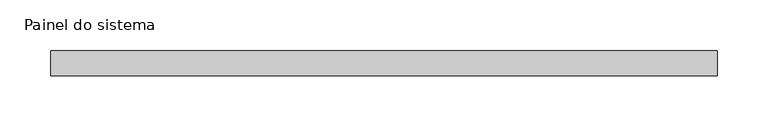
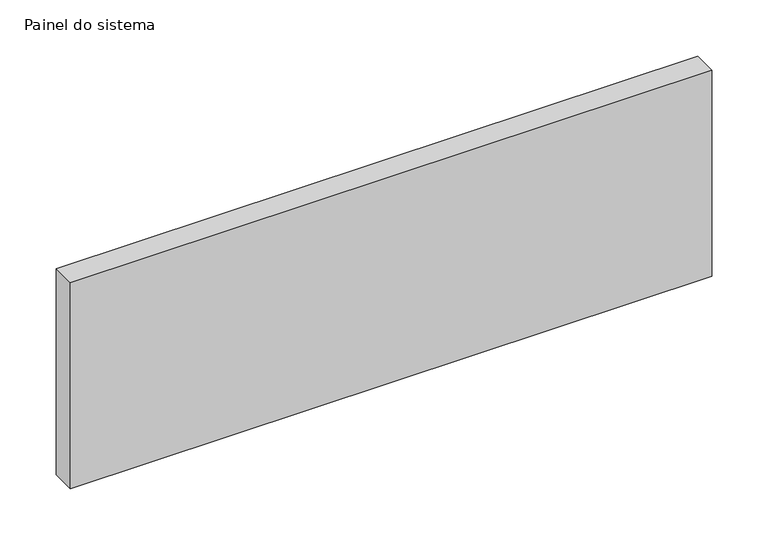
"""IFC4 building model written with IfcOpenShell, lengths in millimetres: plate geometry, Painel do sistema : Envidraçado."""

from ifc_helpers import new_model, si_unit, origin, origin_with_axes, place, context, project, spatial, polyline, outline, extrude, source, transform, mapped, element, save


def painel_do_sistema_6f748cef(model_context):
    return source(origin(), model_context, "Body", "SweptSolid", [
        extrude(outline(polyline([(329.5002289, 24.5), (-329.5002289, 24.5), (-329.5002289, 49.5), (329.5002289, 49.5), (329.5002289, 24.5)])), origin_with_axes(), (0.0, 0.0, 1.0), 223.6217085),
    ])


if __name__ == "__main__":
    model = new_model("IFC4")
    model_context = context("Model", 3, world=origin())
    ifc_project = project(units=[si_unit("LENGTHUNIT", "METRE", prefix="MILLI")], contexts=[model_context])
    site = spatial("IfcSite", under=ifc_project)
    building = spatial("IfcBuilding", under=site)
    placement = place(None, origin())
    painel_do_sistema_shape = painel_do_sistema_6f748cef(model_context)
    element("IfcPlate", 1, ObjectType="Painel do sistema : Envidraçado", at=placement, inside=building, context=model_context, shape_type="MappedRepresentation", body=[
        mapped(painel_do_sistema_shape, transform((0.0, 0.0, 0.0), x_axis=(1.0, 0.0, 0.0), y_axis=(0.0, 1.0, 0.0), z_axis=(0.0, 0.0, 1.0))),
    ])
    save(model, "model.ifc")
